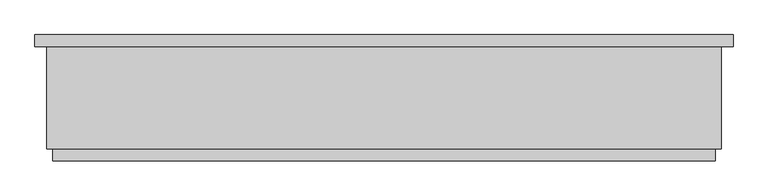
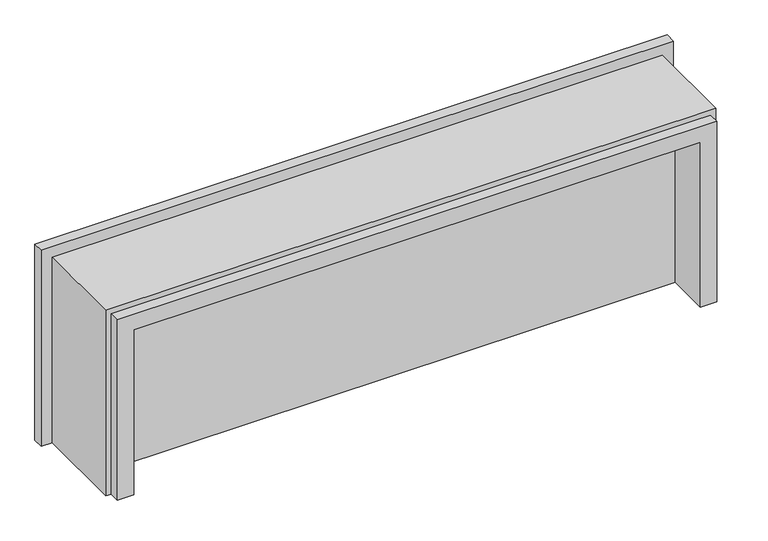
"""IFC4 building model written with IfcOpenShell, lengths in millimetres: proxy geometry, 雨棚 : 雨棚."""

from ifc_helpers import new_model, si_unit, origin, place, context, project, spatial, faceted_brep, source, transform, mapped, element, save


def generic_models_051adba6(model_context):
    return source(origin(), model_context, "Body", "Brep", [
        faceted_brep([(-2650.0, 450.0, 0.0), (-2650.0, -100.0, 0.0), (2650.0, -100.0, 0.0), (2650.0, 450.0, 0.0), (2900.0, 450.0, 0.0), (2900.0, 350.0, 0.0), (2800.0, 350.0, 0.0), (2800.0, -500.0, 0.0), (2750.0, -500.0, 0.0), (2750.0, -600.0, 0.0), (2600.0, -600.0, 0.0), (2600.0, -200.0, 0.0), (-2600.0, -200.0, 0.0), (-2600.0, -600.0, 0.0), (-2750.0, -600.0, 0.0), (-2750.0, -500.0, 0.0), (-2800.0, -500.0, 0.0), (-2800.0, 350.0, 0.0), (-2900.0, 350.0, 0.0), (-2900.0, 450.0, 0.0), (-2650.0, 450.0, 1650.0), (-2650.0, -100.0, 1650.0), (2650.0, -100.0, 1650.0), (2600.0, -200.0, 1600.0), (-2600.0, -200.0, 1600.0), (-2600.0, -600.0, 1600.0), (2600.0, -600.0, 1600.0), (2750.0, -600.0, 1750.0), (-2750.0, -600.0, 1750.0), (-2750.0, -500.0, 1750.0), (2750.0, -500.0, 1750.0), (2800.0, -500.0, 1800.0), (-2800.0, -500.0, 1800.0), (-2800.0, 350.0, 1800.0), (2800.0, 350.0, 1800.0), (2900.0, 350.0, 1900.0), (-2900.0, 350.0, 1900.0), (-2900.0, 450.0, 1900.0), (2900.0, 450.0, 1900.0), (2650.0, 450.0, 1650.0)], [[[0, 1, 2, 3, 4, 5, 6, 7, 8, 9, 10, 11, 12, 13, 14, 15, 16, 17, 18, 19]], [[1, 0, 20, 21]], [[2, 1, 21, 22]], [[12, 11, 23, 24]], [[13, 12, 24, 25]], [[14, 13, 25, 26, 10, 9, 27, 28]], [[15, 14, 28, 29]], [[16, 15, 29, 30, 8, 7, 31, 32]], [[17, 16, 32, 33]], [[18, 17, 33, 34, 6, 5, 35, 36]], [[19, 18, 36, 37]], [[0, 19, 37, 38, 4, 3, 39, 20]], [[21, 20, 39, 22]], [[25, 24, 23, 26]], [[29, 28, 27, 30]], [[33, 32, 31, 34]], [[37, 36, 35, 38]], [[22, 39, 3, 2]], [[26, 23, 11, 10]], [[30, 27, 9, 8]], [[34, 31, 7, 6]], [[38, 35, 5, 4]]]),
    ])


if __name__ == "__main__":
    model = new_model("IFC4")
    model_context = context("Model", 3, world=origin())
    ifc_project = project(units=[si_unit("LENGTHUNIT", "METRE", prefix="MILLI")], contexts=[model_context])
    site = spatial("IfcSite", under=ifc_project)
    building = spatial("IfcBuilding", under=site)
    placement = place(None, origin())
    generic_models_shape = generic_models_051adba6(model_context)
    element("IfcBuildingElementProxy", 1, Name="雨棚 : 雨棚", ObjectType="雨棚 : 雨棚", at=placement, inside=building, context=model_context, shape_type="MappedRepresentation", body=[
        mapped(generic_models_shape, transform((0.0, 0.0, 0.0), x_axis=(1.0, 0.0, 0.0), y_axis=(0.0, 1.0, 0.0), z_axis=(0.0, 0.0, 1.0))),
    ])
    save(model, "model.ifc")
